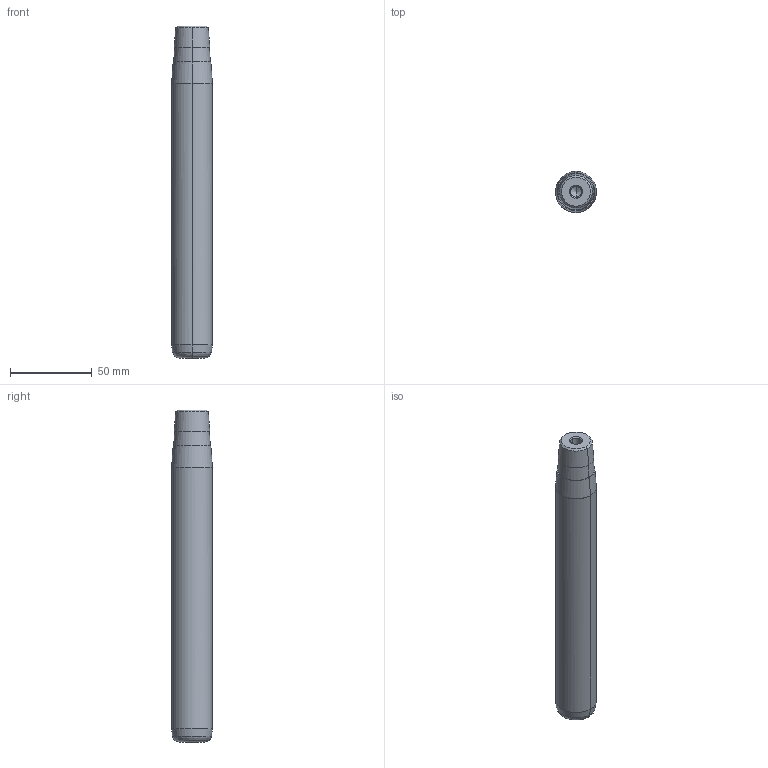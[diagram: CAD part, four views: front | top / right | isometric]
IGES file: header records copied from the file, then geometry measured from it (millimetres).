
Start section: START RECORD GO HERE.
Global section: file name: 722-25x180x203.igs; native system: DASSAULT SYSTEMES CATIA V5 R20 - www.3ds.com; preprocessor: CATIA Version 5 Release 20 ; author: Utente; organization: NB04-ASUS; date: 20210109.090432; units: millimetre
Bounding box: 25 x 25 x 203 mm (x, y, z)
Surface area: 17330.1 mm2 (no closed solid volume)
Topology: 0 solids, 0 shells, 32 faces, 192 edges, 188 vertices
Faces by surface type: revolution 30, plane 2
